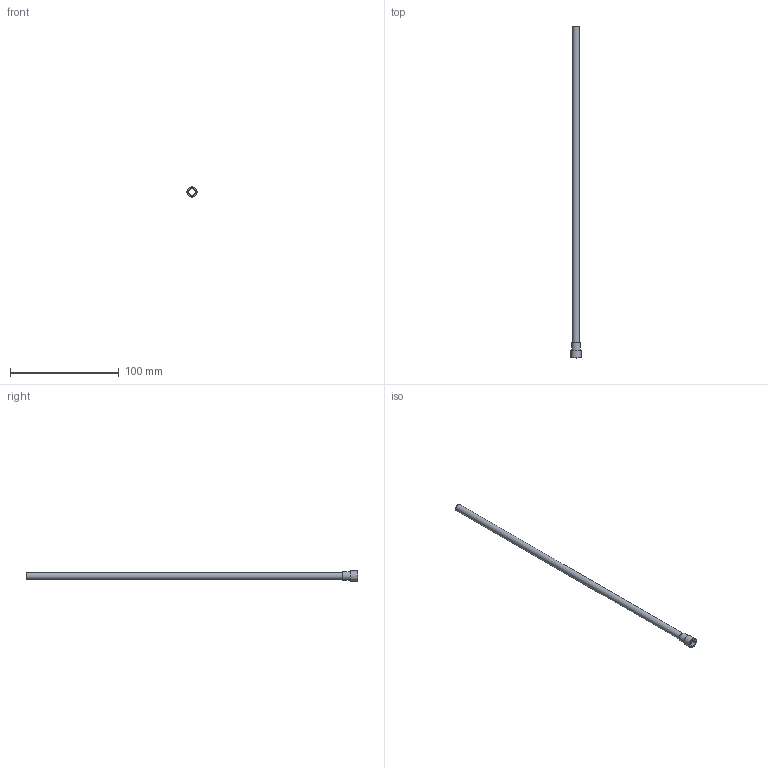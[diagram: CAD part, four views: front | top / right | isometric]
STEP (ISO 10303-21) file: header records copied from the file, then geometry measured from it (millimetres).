
FILE_DESCRIPTION(/* description */ (''),/* implementation_level */ '2;1');
FILE_NAME(/* name */ 'C:/Users/drich/Desktop/R250T-12 v1.step',/* time_stamp */ '2019-12-30T13:15:46-06:00',/* author */ (''),/* organization */ (''),/* preprocessor_version */ 'ST-DEVELOPER v18',/* originating_system */ 'Autodesk Translation Framework v8.12.0.6',/* authorisation */ '');
FILE_SCHEMA (('AUTOMOTIVE_DESIGN { 1 0 10303 214 3 1 1 }'));
Length unit declared in the file: inch
Products named in the file (1): R250T-12
Bounding box: 9.4 x 304.8 x 9.4 mm (x, y, z)
Volume: 1836.8 mm3; surface area: 11860.7 mm2
Topology: 1 solids, 1 shells, 19 faces, 47 edges, 33 vertices
Faces by surface type: plane 11, cylinder 4, torus 3, cone 1
Full cylindrical faces by diameter (mm): 5.842 x1, 6.35 x1, 7.818 x1, 9.398 x1
Entity records: 624 total; most frequent: DIRECTION 111, CARTESIAN_POINT 100, ORIENTED_EDGE 94, EDGE_CURVE 47, AXIS2_PLACEMENT_3D 44, VERTEX_POINT 33, EDGE_LOOP 24, CIRCLE 24
